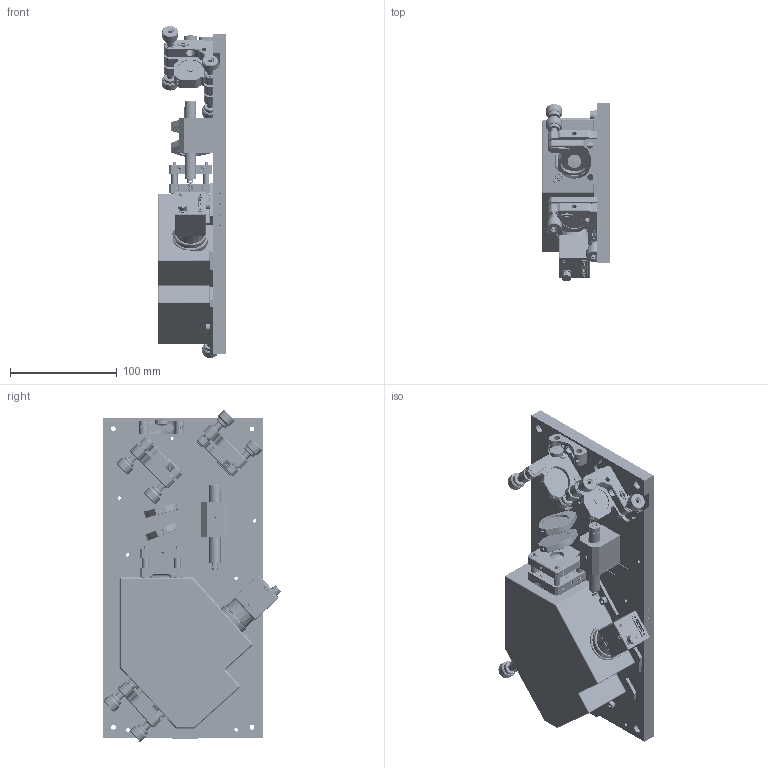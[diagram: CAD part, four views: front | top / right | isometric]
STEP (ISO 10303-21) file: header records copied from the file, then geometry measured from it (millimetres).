
FILE_DESCRIPTION (( 'STEP AP203' ), '1' );
FILE_NAME ('2020-06_2 - STARTER EDITION ASSY.STEP', '2022-10-08T09:23:00', ( '' ), ( '' ), 'SwSTEP 2.0', 'SolidWorks 2020', '' );
FILE_SCHEMA (( 'CONFIG_CONTROL_DESIGN' ));
Length unit declared in the file: millimetre
Products named in the file (28): 2020-02 - BASE PLATE; ER3; DJ532-40; FLIR-BFS-U3-200S6M-C; laser.stp; 2020-04 - PERFORMANCE EDITION ASSY_Step1; CP14_Web Assembly; DIN912 M4x12; 1inch disk; MVL50M23; P10D; 2020-05_02 - LASER HOLDER; 2020-06_2 - STARTER EDITION ASSY; KM100; CPS532; DIN912 M4x6; SS4MN4; 2020-01 - CAMERA BRACKET; FMP1; 2020-07_0 - OPTICAL DESIGN B; 2020-03 - COVER; OR-5X1-NBR70; 2020-15 - GRATING HOLDER; CP35M; CP02B; DIN912 M4x10; CRM1_M; folded.stp
Assembly tree (50 placements, depth 3):
  2020-06_2 - STARTER EDITION ASSY
    2020-04 - PERFORMANCE EDITION ASSY_Step1
      2020-02 - BASE PLATE
      KM100  x3
      FMP1  x2
      CP14_Web Assembly
      CP35M
      CRM1_M
      MVL50M23
      P10D
      CP02B  x2
      ER3  x4
      2020-07_0 - OPTICAL DESIGN B
      2020-03 - COVER
      FLIR-BFS-U3-200S6M-C
      2020-01 - CAMERA BRACKET
      DIN912 M4x6  x3
      DIN912 M4x10  x6
      DIN912 M4x12  x5
      SS4MN4  x3
      DJ532-40
      OR-5X1-NBR70
      folded.stp
      laser.stp
      1inch disk
      2020-15 - GRATING HOLDER
    CPS532
    2020-05_02 - LASER HOLDER
    DIN912 M4x12  x2
    SS4MN4
Bounding box: 64 x 167.4 x 311.52 mm (x, y, z)
Volume: 842558.9 mm3; surface area: 331782.7 mm2
Topology: 156 solids, 163 shells, 8864 faces, 22967 edges, 14946 vertices
Faces by surface type: plane 4280, cylinder 1917, bspline 1544, cone 1022, sphere 55, torus 46
Entity records: 268547 total; most frequent: CARTESIAN_POINT 116232, ORIENTED_EDGE 33070, DIRECTION 26888, EDGE_CURVE 16562, VERTEX_POINT 10991, LINE 9004, VECTOR 9004, AXIS2_PLACEMENT_3D 8942
